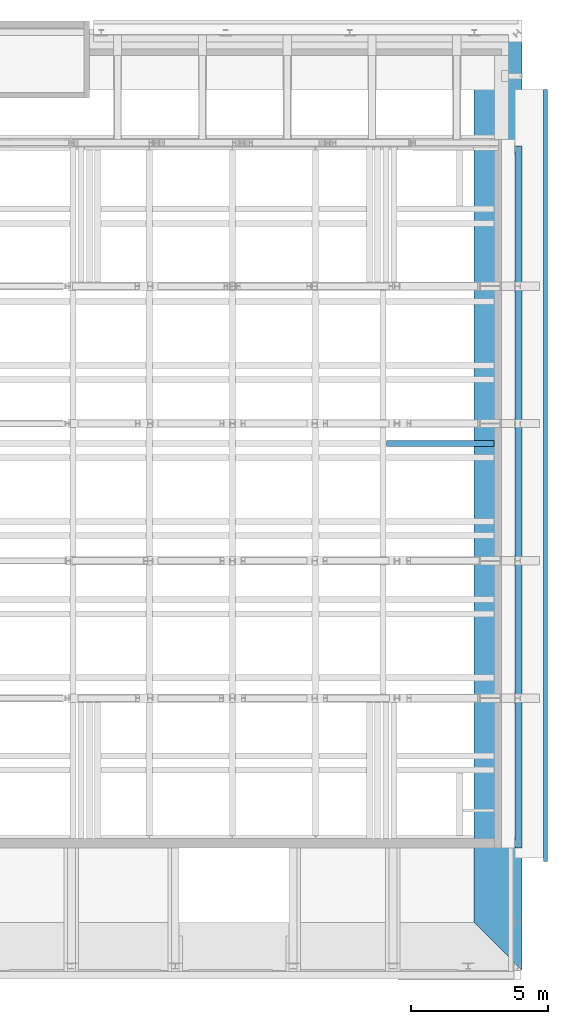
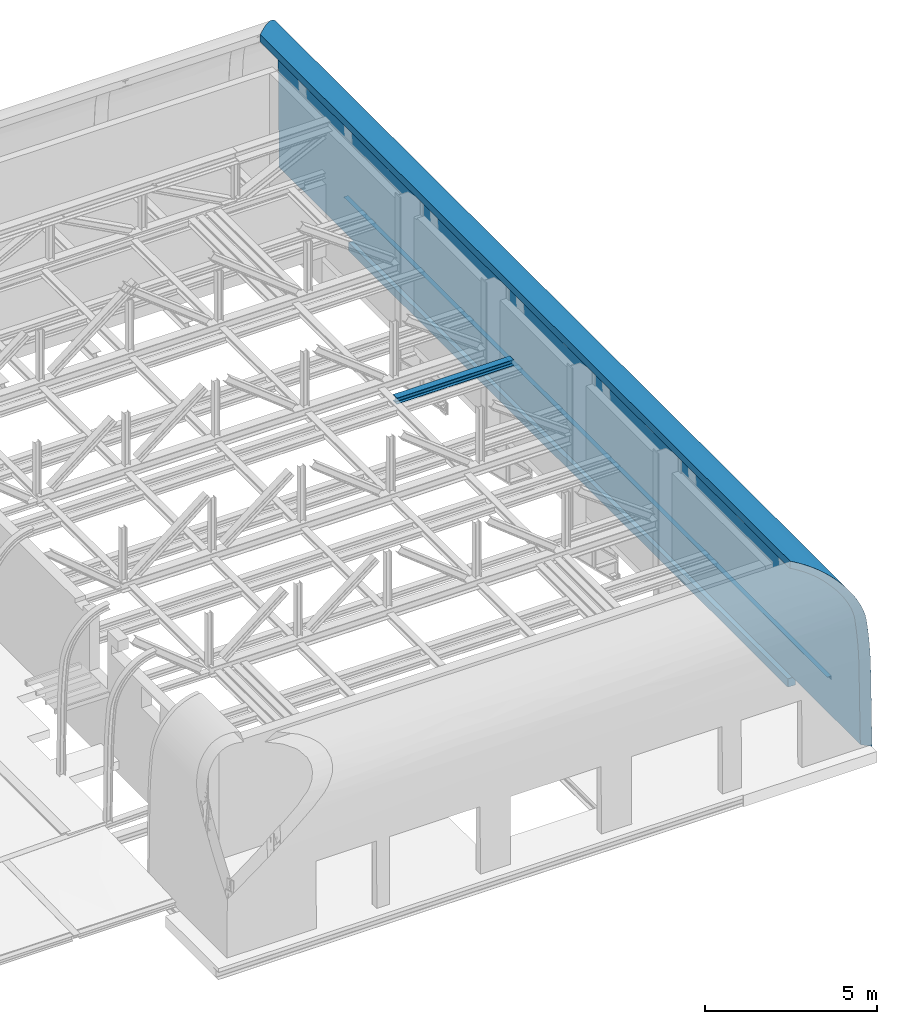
# One storey, part 20 of 29: 4 beams.
"""IFC2X3 building model written with IfcOpenShell, lengths in millimetres."""

from ifc_helpers import new_model, entity, si_unit, converted_unit, derived_unit, direction, frame, frame_2d, origin, place, context, subcontext, project, spatial, polyline, circle_curve, parameter, trimmed, segment, composite_curve, rectangle, outline, extrude, clip, halfspace, material, type_object, element, save


model = new_model("IFC2X3")

# Units and contexts
model_context = context("Model", 3, precision=0.01, world=origin(), true_north=direction((6.12303176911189e-17, 1.0)))
body_context = subcontext(model_context, "Body", "Model", "MODEL_VIEW")
ifc_project = project(units=[si_unit("LENGTHUNIT", "METRE", prefix="MILLI"), si_unit("AREAUNIT", "SQUARE_METRE", prefix="MILLI"), si_unit("VOLUMEUNIT", "CUBIC_METRE"), converted_unit("PLANEANGLEUNIT", "DEGREE", entity("IfcRatioMeasure", 0.0174532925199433), si_unit("PLANEANGLEUNIT", "RADIAN"), dimensions=[0, 0, 0, 0, 0, 0, 0]), si_unit("MASSUNIT", "GRAM", prefix="KILO"), derived_unit("MASSDENSITYUNIT", [(si_unit("MASSUNIT", "GRAM", prefix="KILO"), 1), (si_unit("LENGTHUNIT", "METRE"), -3)]), derived_unit("MOMENTOFINERTIAUNIT", [(si_unit("LENGTHUNIT", "METRE"), 4)]), si_unit("TIMEUNIT", "SECOND"), si_unit("FREQUENCYUNIT", "HERTZ"), si_unit("THERMODYNAMICTEMPERATUREUNIT", "DEGREE_CELSIUS"), derived_unit("THERMALTRANSMITTANCEUNIT", [(si_unit("MASSUNIT", "GRAM", prefix="KILO"), 1), (si_unit("THERMODYNAMICTEMPERATUREUNIT", "KELVIN"), -1), (si_unit("TIMEUNIT", "SECOND"), -3)]), derived_unit("VOLUMETRICFLOWRATEUNIT", [(si_unit("LENGTHUNIT", "METRE"), 3), (si_unit("TIMEUNIT", "SECOND"), -1)]), si_unit("ELECTRICCURRENTUNIT", "AMPERE"), si_unit("ELECTRICVOLTAGEUNIT", "VOLT"), si_unit("POWERUNIT", "WATT"), si_unit("FORCEUNIT", "NEWTON", prefix="KILO"), si_unit("ILLUMINANCEUNIT", "LUX"), si_unit("LUMINOUSFLUXUNIT", "LUMEN"), si_unit("LUMINOUSINTENSITYUNIT", "CANDELA"), derived_unit("USERDEFINED", [(si_unit("MASSUNIT", "GRAM", prefix="KILO"), -1), (si_unit("LENGTHUNIT", "METRE"), -2), (si_unit("TIMEUNIT", "SECOND"), 3), (si_unit("LUMINOUSFLUXUNIT", "LUMEN"), 1)]), derived_unit("LINEARVELOCITYUNIT", [(si_unit("LENGTHUNIT", "METRE"), 1), (si_unit("TIMEUNIT", "SECOND"), -1)]), si_unit("PRESSUREUNIT", "PASCAL"), derived_unit("USERDEFINED", [(si_unit("LENGTHUNIT", "METRE"), -2), (si_unit("MASSUNIT", "GRAM", prefix="KILO"), 1), (si_unit("TIMEUNIT", "SECOND"), -2)]), derived_unit("LINEARFORCEUNIT", [(si_unit("MASSUNIT", "GRAM", prefix="KILO"), 1), (si_unit("LENGTHUNIT", "METRE"), 1), (si_unit("TIMEUNIT", "SECOND"), -2), (si_unit("LENGTHUNIT", "METRE"), -1)]), derived_unit("PLANARFORCEUNIT", [(si_unit("MASSUNIT", "GRAM", prefix="KILO"), 1), (si_unit("LENGTHUNIT", "METRE"), 1), (si_unit("TIMEUNIT", "SECOND"), -2), (si_unit("LENGTHUNIT", "METRE"), -2)])], contexts=[model_context])

# Site, building, storey
site_placement = place(None, origin())
site = spatial("IfcSite", under=ifc_project, at=site_placement, Name="Theater aan de Parade", CompositionType="ELEMENT")
building_placement = place(site_placement, origin())
building = spatial("IfcBuilding", under=site, at=building_placement, Name="Theater aan de Parade", CompositionType="ELEMENT")
storey_placement = place(building_placement, frame((0.0, 0.0, 20300.0)))
storey = spatial("IfcBuildingStorey", under=building, at=storey_placement, Name="05 vijfde verdieping", CompositionType="ELEMENT", Elevation=20300.0)

# Beams
ifc_material_1 = material(Name="00_PBT_MAT_staal_S355")
beam_type_1 = type_object("IfcBeamType", Name="28_PBT_SF_staal_H-profiel:S355_HE220B", PredefinedType="NOTDEFINED")
beam_1_placement = place(storey_placement, frame((86180.0, 34183.5, 0.0), z_axis=(0.0, 0.0, 1.0), x_axis=(-1.0, 0.0, 0.0)))
element("IfcBeam", 1, at=beam_1_placement, inside=storey, type_object=beam_type_1, material=ifc_material_1, Name="28_PBT_SF_staal_H-profiel:S355_HE220B", ObjectType="28_PBT_SF_staal_H-profiel:S355_HE220B", context=body_context, shape_type="SweptSolid", body=[
    extrude(outline(composite_curve([segment(polyline([(94.0, -110.0), (110.0, -110.0)]), True, "CONTINUOUS"), segment(polyline([(110.0, -110.0), (110.0, 110.0)]), True, "CONTINUOUS"), segment(polyline([(110.0, 110.0), (94.0, 110.0)]), True, "CONTINUOUS"), segment(polyline([(94.0, 110.0), (94.0, 22.7500000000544)]), True, "CONTINUOUS"), segment(trimmed(circle_curve(frame_2d((76.0, 22.7500000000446), x_axis=(1.0, 0.0)), 18.0000000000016), [parameter(270.0)], [parameter(0.0)], True, "PARAMETER"), False, "CONTINUOUS"), segment(polyline([(76.0, 4.75000000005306), (-76.0, 4.7499999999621)]), True, "CONTINUOUS"), segment(trimmed(circle_curve(frame_2d((-76.0, 22.7499999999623), x_axis=(0.0, -1.0)), 18.0000000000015), [parameter(270.0)], [parameter(0.0)], True, "PARAMETER"), False, "CONTINUOUS"), segment(polyline([(-94.0, 22.7499999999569), (-94.0, 110.0)]), True, "CONTINUOUS"), segment(polyline([(-94.0, 110.0), (-110.0, 110.0)]), True, "CONTINUOUS"), segment(polyline([(-110.0, 110.0), (-110.0, -110.0)]), True, "CONTINUOUS"), segment(polyline([(-110.0, -110.0), (-94.0, -110.0)]), True, "CONTINUOUS"), segment(polyline([(-94.0, -110.0), (-94.0, -22.7500000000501)]), True, "CONTINUOUS"), segment(trimmed(circle_curve(frame_2d((-76.0, -22.7500000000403), x_axis=(-1.0, 0.0)), 17.9999999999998), [parameter(270.0)], [parameter(0.0)], True, "PARAMETER"), False, "CONTINUOUS"), segment(polyline([(-76.0, -4.75000000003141), (76.0, -4.74999999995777)]), True, "CONTINUOUS"), segment(trimmed(circle_curve(frame_2d((76.0, -22.749999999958), x_axis=(0.0, 1.0)), 18.0000000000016), [parameter(270.0)], [parameter(0.0)], True, "PARAMETER"), False, "CONTINUOUS"), segment(polyline([(94.0, -22.7499999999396), (94.0, -110.0)]), True, "CONTINUOUS")], self_intersect=False)), frame((137.69999999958, 0.0, 2360.0), z_axis=(1.0, 0.0, 0.0), x_axis=(0.0, 0.0, -1.0)), (0.0, 0.0, 1.0), 3924.60000000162),
])
beam_type_2 = type_object("IfcBeamType", Name="28_PBT_SF_staal_L-profiel:S355_L150x150x15", PredefinedType="NOTDEFINED")
beam_2_placement = place(storey_placement, frame((87943.4999999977, 18959.9999114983, 0.0), z_axis=(0.0, 0.0, 1.0), x_axis=(0.0, 1.0, 0.0)))
element("IfcBeam", 2, at=beam_2_placement, inside=storey, type_object=beam_type_2, material=ifc_material_1, Name="28_PBT_SF_staal_L-profiel:S355_L150x150x15", ObjectType="28_PBT_SF_staal_L-profiel:S355_L150x150x15", context=body_context, shape_type="SweptSolid", body=[
    extrude(outline(composite_curve([segment(polyline([(-56.6666666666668, -56.6666666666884), (93.3333333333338, -56.6666666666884)]), True, "CONTINUOUS"), segment(polyline([(93.3333333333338, -56.6666666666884), (93.3333333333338, -49.66666666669)]), True, "CONTINUOUS"), segment(trimmed(circle_curve(frame_2d((85.3333333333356, -49.66666666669), x_axis=(1.0, 0.0)), 7.99999999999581), [parameter(0.0)], [parameter(90.0000000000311)], True, "PARAMETER"), True, "CONTINUOUS"), segment(polyline([(85.3333333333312, -41.6666666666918), (-25.6666666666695, -41.6666666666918)]), True, "CONTINUOUS"), segment(trimmed(circle_curve(frame_2d((-25.6666666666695, -25.6666666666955), x_axis=(0.0, -1.0)), 15.999999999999), [parameter(270.0)], [parameter(0.0)], True, "PARAMETER"), False, "CONTINUOUS"), segment(polyline([(-41.6666666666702, -25.6666666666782), (-41.6666666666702, 85.3333333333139)]), True, "CONTINUOUS"), segment(trimmed(circle_curve(frame_2d((-49.6666666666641, 85.3333333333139), x_axis=(1.0, 0.0)), 7.99999999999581), [parameter(0.0)], [parameter(90.0000000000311)], True, "PARAMETER"), True, "CONTINUOUS"), segment(polyline([(-49.6666666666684, 93.3333333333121), (-56.6666666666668, 93.3333333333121)]), True, "CONTINUOUS"), segment(polyline([(-56.6666666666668, 93.3333333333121), (-56.6666666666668, -56.6666666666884)]), True, "CONTINUOUS")], self_intersect=False)), frame((0.0, 14.1666666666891, -326.666666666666), z_axis=(1.0, 0.0, 0.0), x_axis=(0.0, 0.0, -1.0)), (0.0, 0.0, 1.0), 28110.815012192),
])
ifc_material_2 = material(Name="00_PBT_MAT_beton prefab")
beam_type_3 = type_object("IfcBeamType", Name="28_PBT_SF_toneeltoren_dakboog:28_PBT_SF_toneeltoren_dakboog as R", PredefinedType="NOTDEFINED")
beam_3_placement = place(storey_placement, frame((86805.4903536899, 49676.564484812, 0.0), z_axis=(0.0, 0.0, 1.0), x_axis=(0.0, -1.0, 0.0)))
element("IfcBeam", 3, at=beam_3_placement, inside=storey, type_object=beam_type_3, material=ifc_material_2, Name="28_PBT_SF_toneeltoren_dakboog:28_PBT_SF_toneeltoren_dakboog as R", ObjectType="28_PBT_SF_toneeltoren_dakboog:28_PBT_SF_toneeltoren_dakboog as R", context=body_context, shape_type="Clipping", body=[
    clip(clip(extrude(outline(composite_curve([segment(polyline([(367.701157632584, -3750.31772732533), (617.71472471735, -3750.31772732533)]), True, "CONTINUOUS"), segment(polyline([(617.71472471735, -3750.31772732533), (588.345331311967, -941.280428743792)]), True, "CONTINUOUS"), segment(trimmed(circle_curve(frame_2d((-19483.9946639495, -1220.80127641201), x_axis=(0.999903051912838, 0.0139243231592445)), 20074.2861589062), [parameter(0.0)], [parameter(4.4173134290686)], True, "PARAMETER"), True, "CONTINUOUS"), segment(trimmed(circle_curve(frame_2d((-1466.61288726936, 487.17106898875), x_axis=(0.998256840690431, 0.0590193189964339)), 1977.25169724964), [parameter(0.0)], [parameter(43.8569338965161)], True, "PARAMETER"), True, "CONTINUOUS"), segment(trimmed(circle_curve(frame_2d((-1204.11487157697, 828.404694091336), x_axis=(0.697167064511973, 0.716908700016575)), 1548.98840107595), [parameter(0.0)], [parameter(41.1498829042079)], True, "PARAMETER"), True, "CONTINUOUS"), segment(polyline([(-1121.68982493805, 2375.19853244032), (-1134.99286945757, 2125.5527253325)]), True, "CONTINUOUS"), segment(trimmed(circle_curve(frame_2d((-1204.11487157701, 828.404694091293), x_axis=(0.053212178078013, 0.998583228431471)), 1298.98840107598), [parameter(318.712894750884)], [parameter(0.0)], True, "PARAMETER"), False, "CONTINUOUS"), segment(trimmed(circle_curve(frame_2d((-1466.61288726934, 487.171068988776), x_axis=(0.677572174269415, 0.73545628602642)), 1727.25169724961), [parameter(315.90923602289)], [parameter(0.0)], True, "PARAMETER"), False, "CONTINUOUS"), segment(trimmed(circle_curve(frame_2d((-19483.9946639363, -1220.80127641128), x_axis=(0.99584150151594, 0.0911027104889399)), 19824.2861589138), [parameter(355.572045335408)], [parameter(0.0)], True, "PARAMETER"), False, "CONTINUOUS"), segment(polyline([(338.363478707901, -944.324560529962), (367.701157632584, -3750.31772732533)]), True, "CONTINUOUS")], self_intersect=False)), frame((377.114769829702, -367.909522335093, 3700.31772732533), z_axis=(1.0, 0.0, 0.0), x_axis=(0.0, 1.0, 0.0)), (0.0, 0.0, 1.0), 34300.7213378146), halfspace(frame((34414.3677078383, -13.6631974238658, 17918.9585902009), z_axis=(0.707106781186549, -0.707106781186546, 0.0), x_axis=(0.707106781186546, 0.707106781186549, 0.0)), False)), halfspace(frame((613.256774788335, 13.6631974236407, 17918.9585902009), z_axis=(-0.707106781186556, -0.707106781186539, 0.0), x_axis=(-0.707106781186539, 0.707106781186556, 0.0)), False)),
])
ifc_material_3 = material(Name="00_PBT_MAT_volgens leverancier")
beam_type_4 = type_object("IfcBeamType", Name="21_PBT_SF_akoestische ontkoppeling:250x300", PredefinedType="NOTDEFINED")
beam_4_placement = place(storey_placement, frame((86804.5647725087, 45010.0, 0.0), z_axis=(0.0, 0.0, 1.0), x_axis=(0.0, -1.0, 0.0)))
element("IfcBeam", 4, at=beam_4_placement, inside=storey, type_object=beam_type_4, material=ifc_material_3, Name="21_PBT_SF_akoestische ontkoppeling:250x300", ObjectType="21_PBT_SF_akoestische ontkoppeling:250x300", context=body_context, shape_type="SweptSolid", body=[
    extrude(rectangle(XDim=300.000000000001, YDim=249.999999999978, at=frame_2d((0.0, 8.66151594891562e-12), x_axis=(1.0, 0.0))), frame((0.0, 125.0, -420.0), z_axis=(1.0, 0.0, 0.0), x_axis=(0.0, 0.0, -1.0)), (0.0, 0.0, 1.0), 25549.9997564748),
])

save(model, "model.ifc")
